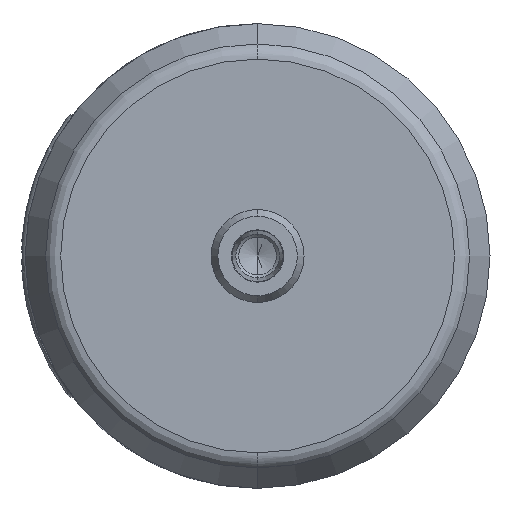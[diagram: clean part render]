
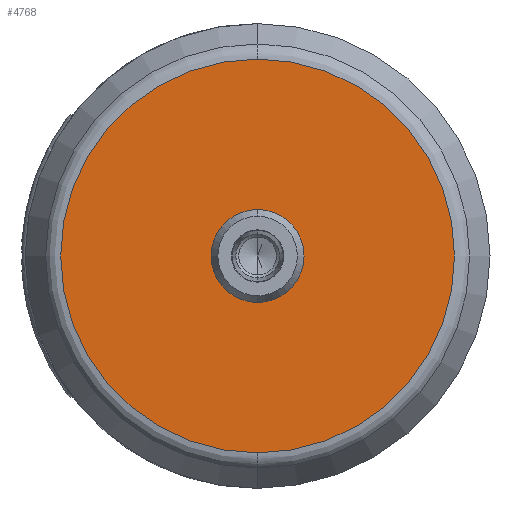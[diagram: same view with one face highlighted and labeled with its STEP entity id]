
A CAD part, front view. The second image highlights one B-rep face of the part: STEP entity #4768.
In plain terms, the highlighted planar face has unit normal (0, -1, 0).
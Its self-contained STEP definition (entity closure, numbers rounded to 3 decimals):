
#83 = AXIS2_PLACEMENT_3D ( 'NONE', #2674, #3103, #489 ) ;
#177 = CIRCLE ( 'NONE', #83, 7.75 ) ;
#190 = EDGE_CURVE ( 'NONE', #4159, #3183, #2602, .T. ) ;
#271 = ORIENTED_EDGE ( 'NONE', *, *, #4431, .T. ) ;
#489 = DIRECTION ( 'NONE',  ( 0., 0., 1. ) ) ;
#601 = FACE_OUTER_BOUND ( 'NONE', #694, .T. ) ;
#694 = EDGE_LOOP ( 'NONE', ( #4577, #2835 ) ) ;
#703 = DIRECTION ( 'NONE',  ( 0., 0., 1. ) ) ;
#806 = DIRECTION ( 'NONE',  ( 0., 0., -1. ) ) ;
#1253 = EDGE_CURVE ( 'NONE', #2371, #4211, #177, .T. ) ;
#1625 = CARTESIAN_POINT ( 'NONE',  ( 0., 0., 0. ) ) ;
#1668 = AXIS2_PLACEMENT_3D ( 'NONE', #2684, #3115, #3177 ) ;
#1676 = PLANE ( 'NONE',  #3714 ) ;
#1816 = DIRECTION ( 'NONE',  ( 0., 0., 1. ) ) ;
#2129 = DIRECTION ( 'NONE',  ( 0., -1., 0. ) ) ;
#2195 = CARTESIAN_POINT ( 'NONE',  ( 0., 0., 0. ) ) ;
#2371 = VERTEX_POINT ( 'NONE', #2667 ) ;
#2389 = FACE_BOUND ( 'NONE', #3961, .T. ) ;
#2602 = CIRCLE ( 'NONE', #5485, 33.892 ) ;
#2667 = CARTESIAN_POINT ( 'NONE',  ( 0., 0., 7.75 ) ) ;
#2674 = CARTESIAN_POINT ( 'NONE',  ( 0., 0., 0. ) ) ;
#2684 = CARTESIAN_POINT ( 'NONE',  ( 0., 0., 0. ) ) ;
#2835 = ORIENTED_EDGE ( 'NONE', *, *, #3154, .F. ) ;
#3016 = ORIENTED_EDGE ( 'NONE', *, *, #1253, .T. ) ;
#3103 = DIRECTION ( 'NONE',  ( 0., 1., 0. ) ) ;
#3115 = DIRECTION ( 'NONE',  ( 0., 1., 0. ) ) ;
#3146 = CARTESIAN_POINT ( 'NONE',  ( 0., 0., -7.75 ) ) ;
#3154 = EDGE_CURVE ( 'NONE', #3183, #4159, #4384, .T. ) ;
#3177 = DIRECTION ( 'NONE',  ( 0., 0., 1. ) ) ;
#3183 = VERTEX_POINT ( 'NONE', #4767 ) ;
#3714 = AXIS2_PLACEMENT_3D ( 'NONE', #3771, #2129, #806 ) ;
#3771 = CARTESIAN_POINT ( 'NONE',  ( 0., 0., 0. ) ) ;
#3961 = EDGE_LOOP ( 'NONE', ( #3016, #271 ) ) ;
#4159 = VERTEX_POINT ( 'NONE', #4380 ) ;
#4211 = VERTEX_POINT ( 'NONE', #3146 ) ;
#4380 = CARTESIAN_POINT ( 'NONE',  ( 0., 0., 33.892 ) ) ;
#4384 = CIRCLE ( 'NONE', #4959, 33.892 ) ;
#4431 = EDGE_CURVE ( 'NONE', #4211, #2371, #5755, .T. ) ;
#4577 = ORIENTED_EDGE ( 'NONE', *, *, #190, .F. ) ;
#4726 = DIRECTION ( 'NONE',  ( 0., 1., 0. ) ) ;
#4767 = CARTESIAN_POINT ( 'NONE',  ( 0., 0., -33.892 ) ) ;
#4768 = ADVANCED_FACE ( 'NONE', ( #2389, #601 ), #1676, .T. ) ;
#4875 = DIRECTION ( 'NONE',  ( 0., 1., 0. ) ) ;
#4959 = AXIS2_PLACEMENT_3D ( 'NONE', #2195, #4875, #1816 ) ;
#5485 = AXIS2_PLACEMENT_3D ( 'NONE', #1625, #4726, #703 ) ;
#5755 = CIRCLE ( 'NONE', #1668, 7.75 ) ;
